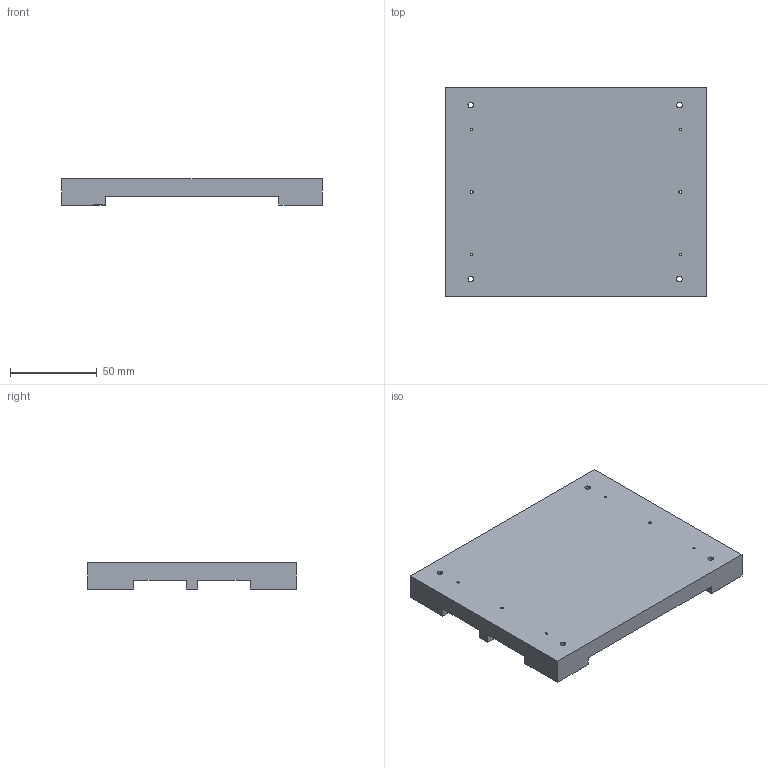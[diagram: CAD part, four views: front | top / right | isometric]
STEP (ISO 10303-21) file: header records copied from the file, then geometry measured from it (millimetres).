
FILE_DESCRIPTION(('CATIA V5 STEP Exchange'),'2;1');
FILE_NAME('D:\CATIA\ATLAS\Atlas_Maarten\atlas_upgrade_maarten\Ass.Module\STP\Base_Outil_3.stp','2010-09-02T14:42:45+00:00',('none'),('none'),'CATIA Version 5 Release 18 SP 4 (IN-10)','CATIA V5 STEP AP203','none');
FILE_SCHEMA(('CONFIG_CONTROL_DESIGN'));
Length unit declared in the file: millimetre
Products named in the file (1): Base_Outil_3
Bounding box: 150 x 120 x 15 mm (x, y, z)
Volume: 194235.4 mm3; surface area: 45064.2 mm2
Topology: 1 solids, 1 shells, 66 faces, 174 edges, 116 vertices
Faces by surface type: plane 34, cylinder 32
Entity records: 1910 total; most frequent: ORIENTED_EDGE 348, CARTESIAN_POINT 323, DIRECTION 238, EDGE_CURVE 174, VERTEX_POINT 116, VECTOR 110, LINE 110, AXIS2_PLACEMENT_3D 97
